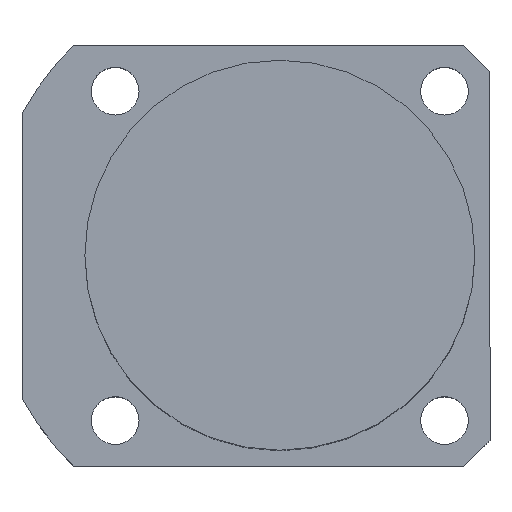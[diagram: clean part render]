
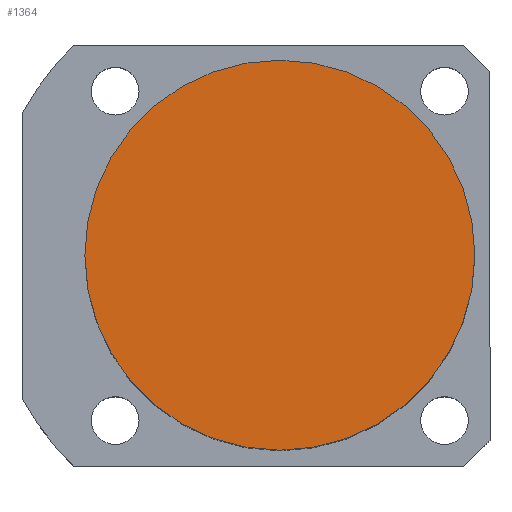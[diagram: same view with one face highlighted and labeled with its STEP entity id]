
A CAD part, top view. The second image highlights one B-rep face of the part: STEP entity #1364.
In plain terms, the highlighted planar face has unit normal (0, 0, 1).
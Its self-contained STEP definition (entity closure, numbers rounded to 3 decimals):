
#155 = EDGE_CURVE ( 'NONE', #3644, #3312, #3075, .T. ) ;
#252 = CIRCLE ( 'NONE', #2595, 45. ) ;
#342 = PLANE ( 'NONE',  #6598 ) ;
#613 = EDGE_CURVE ( 'NONE', #3312, #3644, #252, .T. ) ;
#730 = DIRECTION ( 'NONE',  ( 0., 0., 1. ) ) ;
#1273 = DIRECTION ( 'NONE',  ( 0., 0., 1. ) ) ;
#1364 = ADVANCED_FACE ( 'NONE', ( #4426 ), #342, .T. ) ;
#1460 = DIRECTION ( 'NONE',  ( 1., 0., 0. ) ) ;
#1730 = ORIENTED_EDGE ( 'NONE', *, *, #613, .T. ) ;
#1840 = CARTESIAN_POINT ( 'NONE',  ( -45., 0., 104.5 ) ) ;
#2595 = AXIS2_PLACEMENT_3D ( 'NONE', #4533, #1273, #5073 ) ;
#2906 = AXIS2_PLACEMENT_3D ( 'NONE', #3424, #730, #3445 ) ;
#3075 = CIRCLE ( 'NONE', #2906, 45. ) ;
#3312 = VERTEX_POINT ( 'NONE', #1840 ) ;
#3424 = CARTESIAN_POINT ( 'NONE',  ( 0., 0., 104.5 ) ) ;
#3445 = DIRECTION ( 'NONE',  ( 1., 0., 0. ) ) ;
#3608 = CARTESIAN_POINT ( 'NONE',  ( 45., 0., 104.5 ) ) ;
#3644 = VERTEX_POINT ( 'NONE', #3608 ) ;
#4143 = CARTESIAN_POINT ( 'NONE',  ( 0., 0., 104.5 ) ) ;
#4426 = FACE_OUTER_BOUND ( 'NONE', #5133, .T. ) ;
#4533 = CARTESIAN_POINT ( 'NONE',  ( 0., 0., 104.5 ) ) ;
#4713 = DIRECTION ( 'NONE',  ( 0., 0., 1. ) ) ;
#4720 = ORIENTED_EDGE ( 'NONE', *, *, #155, .T. ) ;
#5073 = DIRECTION ( 'NONE',  ( 1., 0., 0. ) ) ;
#5133 = EDGE_LOOP ( 'NONE', ( #1730, #4720 ) ) ;
#6598 = AXIS2_PLACEMENT_3D ( 'NONE', #4143, #4713, #1460 ) ;
